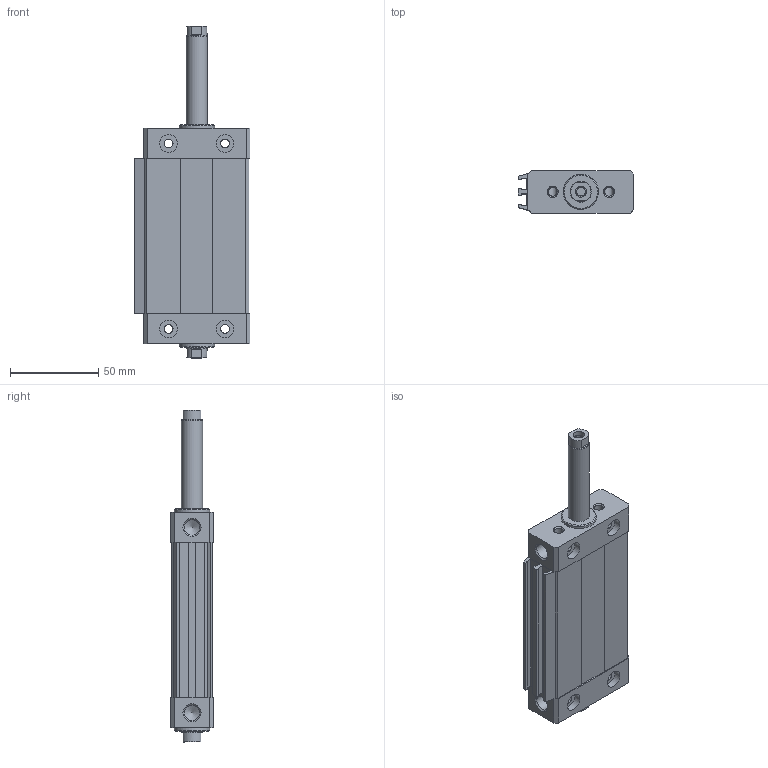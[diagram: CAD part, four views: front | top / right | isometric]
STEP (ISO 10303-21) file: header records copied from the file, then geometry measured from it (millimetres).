
FILE_DESCRIPTION((''),'2;1');
FILE_NAME('I:\Area Tecnica\Disegni\VARIE-3D\Componenti\1370 - CPO\1370_##_0000_03\1370_32_0050_03-01.iam.step','2010-12-16T10:54:34',(''),(''),'Autodesk Inventor 2011','Autodesk Inventor 2011','');
FILE_SCHEMA(('AUTOMOTIVE_DESIGN { 1 0 10303 214 1 1 1 1 }'));
Length unit declared in the file: millimetre
Products named in the file (5): 1370_32_0050_03-01; 1370_05_32_0000; 1370_06_32_0050; 1370_08_32_0000; 1370_3_32_0050
Assembly tree (4 placements, depth 2):
  1370_32_0050_03-01
    1370_05_32_0000
    1370_06_32_0050
    1370_08_32_0000
    1370_3_32_0050
Bounding box: 65.5 x 24 x 188 mm (x, y, z)
Volume: 139137 mm3; surface area: 58301.5 mm2
Topology: 4 solids, 4 shells, 164 faces, 392 edges, 250 vertices
Faces by surface type: plane 92, cylinder 48, cone 24
Full cylindrical faces by diameter (mm): 5 x12, 6.3 x2, 8.7 x2, 10 x8, 11.5 x2, 12 x4, 20 x2
Entity records: 4780 total; most frequent: DIRECTION 792, CARTESIAN_POINT 787, ORIENTED_EDGE 660, EDGE_CURVE 330, AXIS2_PLACEMENT_3D 297, EDGE_LOOP 252, VERTEX_POINT 240, VECTOR 198
